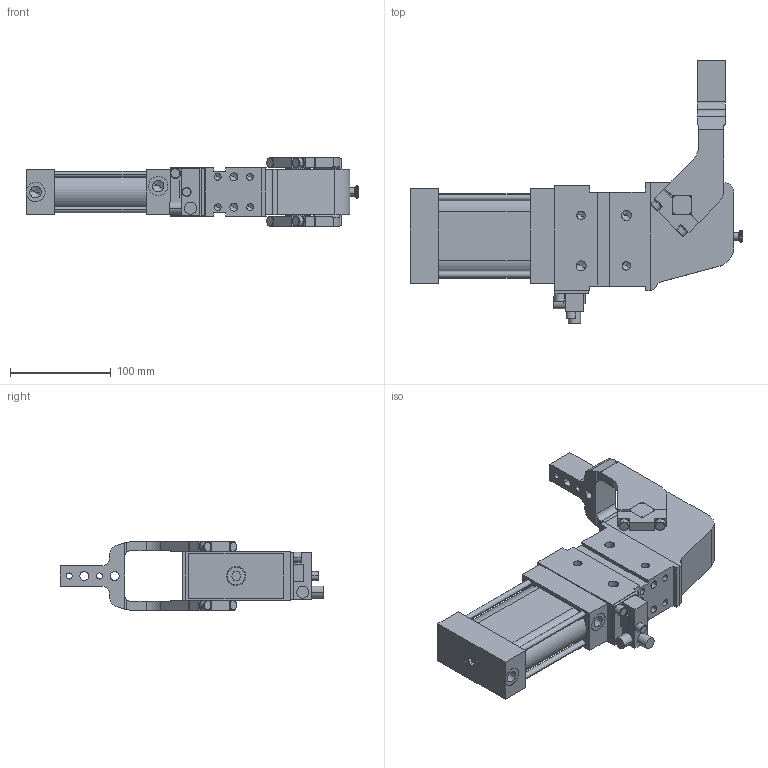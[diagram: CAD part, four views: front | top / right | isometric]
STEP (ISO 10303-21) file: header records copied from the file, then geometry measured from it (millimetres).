
FILE_DESCRIPTION (( 'STEP AP214' ), '1' );
FILE_NAME ('AKUHV50-Z01W12.STEP', '2026-07-07T17:33:48', ( '' ), ( '' ), 'SwSTEP 2.0', 'SolidWorks 2019', '' );
FILE_SCHEMA (( 'AUTOMOTIVE_DESIGN' ));
Length unit declared in the file: millimetre
Products named in the file (3): AKUHV50-Z01W12; AKUHV50-Z00W12; 50-Z01
Assembly tree (2 placements, depth 2):
  AKUHV50-Z01W12
    AKUHV50-Z00W12
    50-Z01
Bounding box: 329 x 261.42 x 68 mm (x, y, z)
Volume: 1389674.4 mm3; surface area: 155754.4 mm2
Topology: 2 solids, 7 shells, 434 faces, 1082 edges, 654 vertices
Faces by surface type: plane 184, cylinder 150, cone 80, torus 20
Entity records: 12859 total; most frequent: CARTESIAN_POINT 2466, DIRECTION 2233, ORIENTED_EDGE 2056, EDGE_CURVE 1028, AXIS2_PLACEMENT_3D 819, VERTEX_POINT 654, LINE 595, VECTOR 595
